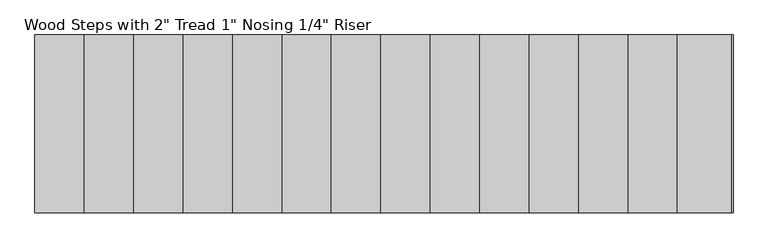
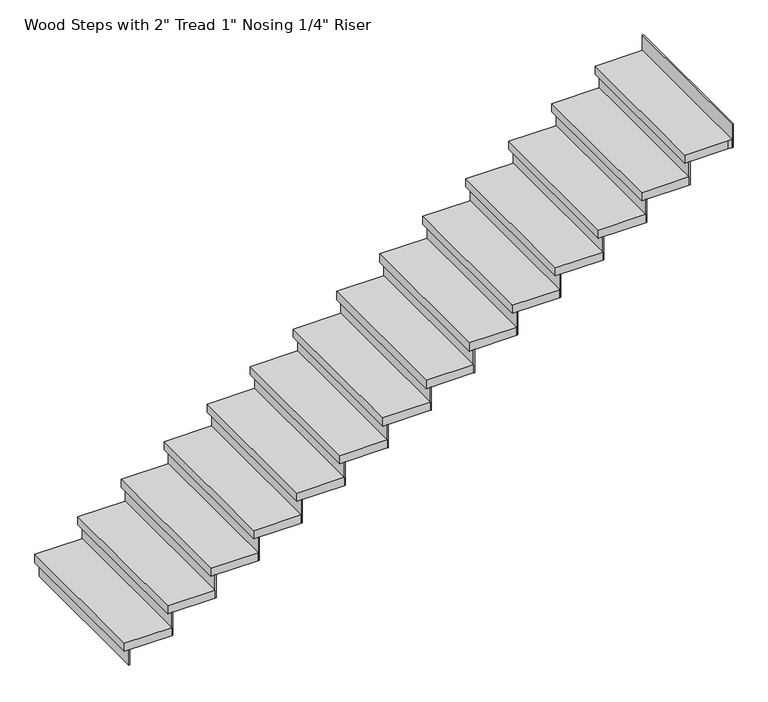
"""IFC4 building model written with IfcOpenShell, lengths in millimetres: stair flight geometry."""

from ifc_helpers import new_model, si_unit, frame, origin, origin_with_axes, place, context, project, spatial, polyline, outline, extrude, source, transform, mapped, element, save


def stair_flight_e8b61742(model_context):
    return source(origin(), model_context, "Body", "SweptSolid", [
        extrude(outline(polyline([(-23949.292616, 23363.0076385), (-23955.642616, 23363.0076385), (-23955.642616, 24277.4076385), (-23949.292616, 24277.4076385), (-23949.292616, 23363.0076385)])), origin_with_axes(), (0.0, 0.0, 1.0), 94.3428571),
        extrude(outline(polyline([(-23701.642616, 24277.4076385), (-23701.642616, 23363.0076385), (-23981.042616, 23363.0076385), (-23981.042616, 24277.4076385), (-23701.642616, 24277.4076385)])), frame((0.0, 0.0, 94.3428571), z_axis=(0.0, 0.0, 1.0), x_axis=(1.0, 0.0, 0.0)), (0.0, 0.0, 1.0), 50.8),
        extrude(outline(polyline([(-23695.292616, 23363.0076385), (-23701.642616, 23363.0076385), (-23701.642616, 24277.4076385), (-23695.292616, 24277.4076385), (-23695.292616, 23363.0076385)])), frame((0.0, 0.0, 94.3428571), z_axis=(0.0, 0.0, 1.0), x_axis=(1.0, 0.0, 0.0)), (0.0, 0.0, 1.0), 145.1428571),
        extrude(outline(polyline([(-23447.642616, 24277.4076385), (-23447.642616, 23363.0076385), (-23727.042616, 23363.0076385), (-23727.042616, 24277.4076385), (-23447.642616, 24277.4076385)])), frame((0.0, 0.0, 239.4857143), z_axis=(0.0, 0.0, 1.0), x_axis=(1.0, 0.0, 0.0)), (0.0, 0.0, 1.0), 50.8),
        extrude(outline(polyline([(-23441.292616, 23363.0076385), (-23447.642616, 23363.0076385), (-23447.642616, 24277.4076385), (-23441.292616, 24277.4076385), (-23441.292616, 23363.0076385)])), frame((0.0, 0.0, 239.4857143), z_axis=(0.0, 0.0, 1.0), x_axis=(1.0, 0.0, 0.0)), (0.0, 0.0, 1.0), 145.1428571),
        extrude(outline(polyline([(-23193.642616, 24277.4076385), (-23193.642616, 23363.0076385), (-23473.042616, 23363.0076385), (-23473.042616, 24277.4076385), (-23193.642616, 24277.4076385)])), frame((0.0, 0.0, 384.6285714), z_axis=(0.0, 0.0, 1.0), x_axis=(1.0, 0.0, 0.0)), (0.0, 0.0, 1.0), 50.8),
        extrude(outline(polyline([(-23187.292616, 23363.0076385), (-23193.642616, 23363.0076385), (-23193.642616, 24277.4076385), (-23187.292616, 24277.4076385), (-23187.292616, 23363.0076385)])), frame((0.0, 0.0, 384.6285714), z_axis=(0.0, 0.0, 1.0), x_axis=(1.0, 0.0, 0.0)), (0.0, 0.0, 1.0), 145.1428571),
        extrude(outline(polyline([(-22939.642616, 24277.4076385), (-22939.642616, 23363.0076385), (-23219.042616, 23363.0076385), (-23219.042616, 24277.4076385), (-22939.642616, 24277.4076385)])), frame((0.0, 0.0, 529.7714286), z_axis=(0.0, 0.0, 1.0), x_axis=(1.0, 0.0, 0.0)), (0.0, 0.0, 1.0), 50.8),
        extrude(outline(polyline([(-22933.292616, 23363.0076385), (-22939.642616, 23363.0076385), (-22939.642616, 24277.4076385), (-22933.292616, 24277.4076385), (-22933.292616, 23363.0076385)])), frame((0.0, 0.0, 529.7714286), z_axis=(0.0, 0.0, 1.0), x_axis=(1.0, 0.0, 0.0)), (0.0, 0.0, 1.0), 145.1428571),
        extrude(outline(polyline([(-22685.642616, 24277.4076385), (-22685.642616, 23363.0076385), (-22965.042616, 23363.0076385), (-22965.042616, 24277.4076385), (-22685.642616, 24277.4076385)])), frame((0.0, 0.0, 674.9142857), z_axis=(0.0, 0.0, 1.0), x_axis=(1.0, 0.0, 0.0)), (0.0, 0.0, 1.0), 50.8),
        extrude(outline(polyline([(-22679.292616, 23363.0076385), (-22685.642616, 23363.0076385), (-22685.642616, 24277.4076385), (-22679.292616, 24277.4076385), (-22679.292616, 23363.0076385)])), frame((0.0, 0.0, 674.9142857), z_axis=(0.0, 0.0, 1.0), x_axis=(1.0, 0.0, 0.0)), (0.0, 0.0, 1.0), 145.1428571),
        extrude(outline(polyline([(-22431.642616, 24277.4076385), (-22431.642616, 23363.0076385), (-22711.042616, 23363.0076385), (-22711.042616, 24277.4076385), (-22431.642616, 24277.4076385)])), frame((0.0, 0.0, 820.0571429), z_axis=(0.0, 0.0, 1.0), x_axis=(1.0, 0.0, 0.0)), (0.0, 0.0, 1.0), 50.8),
        extrude(outline(polyline([(-22425.292616, 23363.0076385), (-22431.642616, 23363.0076385), (-22431.642616, 24277.4076385), (-22425.292616, 24277.4076385), (-22425.292616, 23363.0076385)])), frame((0.0, 0.0, 820.0571429), z_axis=(0.0, 0.0, 1.0), x_axis=(1.0, 0.0, 0.0)), (0.0, 0.0, 1.0), 145.1428571),
        extrude(outline(polyline([(-22177.642616, 24277.4076385), (-22177.642616, 23363.0076385), (-22457.042616, 23363.0076385), (-22457.042616, 24277.4076385), (-22177.642616, 24277.4076385)])), frame((0.0, 0.0, 965.2), z_axis=(0.0, 0.0, 1.0), x_axis=(1.0, 0.0, 0.0)), (0.0, 0.0, 1.0), 50.8),
        extrude(outline(polyline([(-22171.292616, 23363.0076385), (-22177.642616, 23363.0076385), (-22177.642616, 24277.4076385), (-22171.292616, 24277.4076385), (-22171.292616, 23363.0076385)])), frame((0.0, 0.0, 965.2), z_axis=(0.0, 0.0, 1.0), x_axis=(1.0, 0.0, 0.0)), (0.0, 0.0, 1.0), 145.1428571),
        extrude(outline(polyline([(-21923.642616, 24277.4076385), (-21923.642616, 23363.0076385), (-22203.042616, 23363.0076385), (-22203.042616, 24277.4076385), (-21923.642616, 24277.4076385)])), frame((0.0, 0.0, 1110.3428571), z_axis=(0.0, 0.0, 1.0), x_axis=(1.0, 0.0, 0.0)), (0.0, 0.0, 1.0), 50.8),
        extrude(outline(polyline([(-21917.292616, 23363.0076385), (-21923.642616, 23363.0076385), (-21923.642616, 24277.4076385), (-21917.292616, 24277.4076385), (-21917.292616, 23363.0076385)])), frame((0.0, 0.0, 1110.3428571), z_axis=(0.0, 0.0, 1.0), x_axis=(1.0, 0.0, 0.0)), (0.0, 0.0, 1.0), 145.1428571),
        extrude(outline(polyline([(-21669.642616, 24277.4076385), (-21669.642616, 23363.0076385), (-21949.042616, 23363.0076385), (-21949.042616, 24277.4076385), (-21669.642616, 24277.4076385)])), frame((0.0, 0.0, 1255.4857143), z_axis=(0.0, 0.0, 1.0), x_axis=(1.0, 0.0, 0.0)), (0.0, 0.0, 1.0), 50.8),
        extrude(outline(polyline([(-21663.292616, 23363.0076385), (-21669.642616, 23363.0076385), (-21669.642616, 24277.4076385), (-21663.292616, 24277.4076385), (-21663.292616, 23363.0076385)])), frame((0.0, 0.0, 1255.4857143), z_axis=(0.0, 0.0, 1.0), x_axis=(1.0, 0.0, 0.0)), (0.0, 0.0, 1.0), 145.1428571),
        extrude(outline(polyline([(-21415.642616, 24277.4076385), (-21415.642616, 23363.0076385), (-21695.042616, 23363.0076385), (-21695.042616, 24277.4076385), (-21415.642616, 24277.4076385)])), frame((0.0, 0.0, 1400.6285714), z_axis=(0.0, 0.0, 1.0), x_axis=(1.0, 0.0, 0.0)), (0.0, 0.0, 1.0), 50.8),
        extrude(outline(polyline([(-21409.292616, 23363.0076385), (-21415.642616, 23363.0076385), (-21415.642616, 24277.4076385), (-21409.292616, 24277.4076385), (-21409.292616, 23363.0076385)])), frame((0.0, 0.0, 1400.6285714), z_axis=(0.0, 0.0, 1.0), x_axis=(1.0, 0.0, 0.0)), (0.0, 0.0, 1.0), 145.1428571),
        extrude(outline(polyline([(-21161.642616, 24277.4076385), (-21161.642616, 23363.0076385), (-21441.042616, 23363.0076385), (-21441.042616, 24277.4076385), (-21161.642616, 24277.4076385)])), frame((0.0, 0.0, 1545.7714286), z_axis=(0.0, 0.0, 1.0), x_axis=(1.0, 0.0, 0.0)), (0.0, 0.0, 1.0), 50.8),
        extrude(outline(polyline([(-21155.292616, 23363.0076385), (-21161.642616, 23363.0076385), (-21161.642616, 24277.4076385), (-21155.292616, 24277.4076385), (-21155.292616, 23363.0076385)])), frame((0.0, 0.0, 1545.7714286), z_axis=(0.0, 0.0, 1.0), x_axis=(1.0, 0.0, 0.0)), (0.0, 0.0, 1.0), 145.1428571),
        extrude(outline(polyline([(-20907.642616, 24277.4076385), (-20907.642616, 23363.0076385), (-21187.042616, 23363.0076385), (-21187.042616, 24277.4076385), (-20907.642616, 24277.4076385)])), frame((0.0, 0.0, 1690.9142857), z_axis=(0.0, 0.0, 1.0), x_axis=(1.0, 0.0, 0.0)), (0.0, 0.0, 1.0), 50.8),
        extrude(outline(polyline([(-20901.292616, 23363.0076385), (-20907.642616, 23363.0076385), (-20907.642616, 24277.4076385), (-20901.292616, 24277.4076385), (-20901.292616, 23363.0076385)])), frame((0.0, 0.0, 1690.9142857), z_axis=(0.0, 0.0, 1.0), x_axis=(1.0, 0.0, 0.0)), (0.0, 0.0, 1.0), 145.1428571),
        extrude(outline(polyline([(-20653.642616, 24277.4076385), (-20653.642616, 23363.0076385), (-20933.042616, 23363.0076385), (-20933.042616, 24277.4076385), (-20653.642616, 24277.4076385)])), frame((0.0, 0.0, 1836.0571429), z_axis=(0.0, 0.0, 1.0), x_axis=(1.0, 0.0, 0.0)), (0.0, 0.0, 1.0), 50.8),
        extrude(outline(polyline([(-20393.292616, 23363.0076385), (-20399.642616, 23363.0076385), (-20399.642616, 24277.4076385), (-20393.292616, 24277.4076385), (-20393.292616, 23363.0076385)])), frame((0.0, 0.0, 1981.2), z_axis=(0.0, 0.0, 1.0), x_axis=(1.0, 0.0, 0.0)), (0.0, 0.0, 1.0), 145.1428571),
        extrude(outline(polyline([(-20647.292616, 23363.0076385), (-20653.642616, 23363.0076385), (-20653.642616, 24277.4076385), (-20647.292616, 24277.4076385), (-20647.292616, 23363.0076385)])), frame((0.0, 0.0, 1836.0571429), z_axis=(0.0, 0.0, 1.0), x_axis=(1.0, 0.0, 0.0)), (0.0, 0.0, 1.0), 145.1428571),
        extrude(outline(polyline([(-20399.642616, 24277.4076385), (-20399.642616, 23363.0076385), (-20425.042616, 23363.0076385), (-20679.042616, 23363.0076385), (-20679.042616, 24277.4076385), (-20425.042616, 24277.4076385), (-20399.642616, 24277.4076385)])), frame((0.0, 0.0, 1981.2), z_axis=(0.0, 0.0, 1.0), x_axis=(1.0, 0.0, 0.0)), (0.0, 0.0, 1.0), 50.8),
    ])


if __name__ == "__main__":
    model = new_model("IFC4")
    model_context = context("Model", 3, world=origin())
    ifc_project = project(units=[si_unit("LENGTHUNIT", "METRE", prefix="MILLI")], contexts=[model_context])
    site = spatial("IfcSite", under=ifc_project)
    building = spatial("IfcBuilding", under=site)
    placement = place(None, origin())
    stair_flight_shape = stair_flight_e8b61742(model_context)
    element("IfcStairFlight", 1, ObjectType="Wood Steps with 2\" Tread 1\" Nosing 1/4\" Riser", at=placement, inside=building, context=model_context, shape_type="MappedRepresentation", body=[
        mapped(stair_flight_shape, transform((0.0, 0.0, 0.0), x_axis=(1.0, 0.0, 0.0), y_axis=(0.0, 1.0, 0.0), z_axis=(0.0, 0.0, 1.0))),
    ])
    save(model, "model.ifc")
